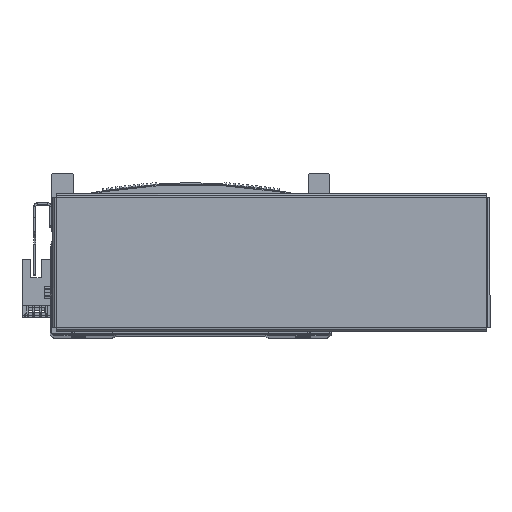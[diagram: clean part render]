
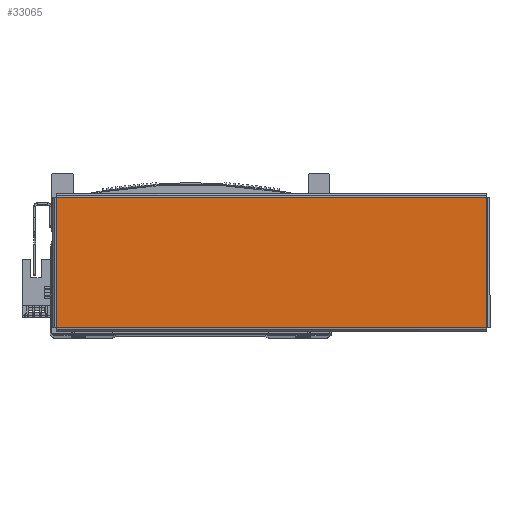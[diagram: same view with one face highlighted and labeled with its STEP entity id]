
A CAD part, top view. The second image highlights one B-rep face of the part: STEP entity #33065.
In plain terms, the highlighted planar face has unit normal (0, 0, 1) as drawn and (0, -1, 0) by its records, which use the part's own axes.
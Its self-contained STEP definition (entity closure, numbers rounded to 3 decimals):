
#11256 = CARTESIAN_POINT ( 'NONE',  ( -103.513, -1., 31.393 ) ) ;
#11287 = CARTESIAN_POINT ( 'NONE',  ( 103.543, -1., 31.363 ) ) ;
#11289 = DIRECTION ( 'NONE',  ( 0., 0., -1. ) ) ;
#11333 = DIRECTION ( 'NONE',  ( -1., 0., 0. ) ) ;
#11348 = CARTESIAN_POINT ( 'NONE',  ( -103.543, -1., -31.363 ) ) ;
#11361 = DIRECTION ( 'NONE',  ( 1., 0., 0. ) ) ;
#11542 = CARTESIAN_POINT ( 'NONE',  ( 103.513, -1., -31.393 ) ) ;
#11574 = DIRECTION ( 'NONE',  ( 0., 0., 1. ) ) ;
#11617 = CARTESIAN_POINT ( 'NONE',  ( 0., -1., 0. ) ) ;
#11639 = DIRECTION ( 'NONE',  ( 0., 0., 1. ) ) ;
#11662 = DIRECTION ( 'NONE',  ( 0., 1., 0. ) ) ;
#11680 = PLANE ( 'NONE',  #23385 ) ;
#18075 = VECTOR ( 'NONE', #11361, 1000. ) ;
#18095 = VECTOR ( 'NONE', #11574, 1000. ) ;
#18110 = LINE ( 'NONE', #11542, #18095 ) ;
#23385 = AXIS2_PLACEMENT_3D ( 'NONE', #11617, #11662, #11639 ) ;
#25905 = EDGE_LOOP ( 'NONE', ( #71878, #71916, #71925, #71938 ) ) ;
#27433 = EDGE_CURVE ( 'NONE', #39710, #39667, #49019, .T. ) ;
#27434 = EDGE_CURVE ( 'NONE', #39667, #39705, #49209, .T. ) ;
#27452 = EDGE_CURVE ( 'NONE', #39705, #39691, #49961, .T. ) ;
#27482 = EDGE_CURVE ( 'NONE', #39691, #39710, #18110, .T. ) ;
#33065 = ADVANCED_FACE ( 'NONE', ( #51943 ), #11680, .F. ) ;
#39667 = VERTEX_POINT ( 'NONE', #73532 ) ;
#39691 = VERTEX_POINT ( 'NONE', #73494 ) ;
#39705 = VERTEX_POINT ( 'NONE', #57448 ) ;
#39710 = VERTEX_POINT ( 'NONE', #57384 ) ;
#49019 = LINE ( 'NONE', #11287, #49160 ) ;
#49160 = VECTOR ( 'NONE', #11333, 1000. ) ;
#49209 = LINE ( 'NONE', #11256, #49245 ) ;
#49245 = VECTOR ( 'NONE', #11289, 1000. ) ;
#49961 = LINE ( 'NONE', #11348, #18075 ) ;
#51943 = FACE_OUTER_BOUND ( 'NONE', #25905, .T. ) ;
#57384 = CARTESIAN_POINT ( 'NONE',  ( 103.513, -1., 31.363 ) ) ;
#57448 = CARTESIAN_POINT ( 'NONE',  ( -103.513, -1., -31.363 ) ) ;
#71878 = ORIENTED_EDGE ( 'NONE', *, *, #27433, .T. ) ;
#71916 = ORIENTED_EDGE ( 'NONE', *, *, #27434, .T. ) ;
#71925 = ORIENTED_EDGE ( 'NONE', *, *, #27452, .T. ) ;
#71938 = ORIENTED_EDGE ( 'NONE', *, *, #27482, .T. ) ;
#73494 = CARTESIAN_POINT ( 'NONE',  ( 103.513, -1., -31.363 ) ) ;
#73532 = CARTESIAN_POINT ( 'NONE',  ( -103.513, -1., 31.363 ) ) ;
